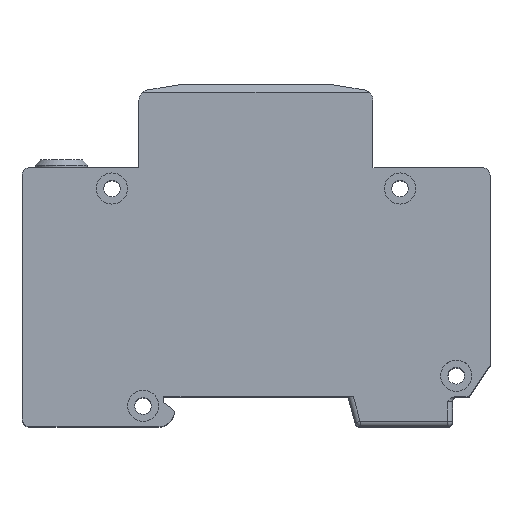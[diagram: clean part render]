
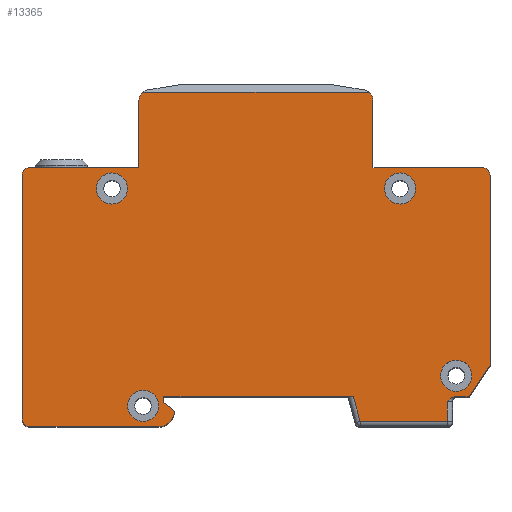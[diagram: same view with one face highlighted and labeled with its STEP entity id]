
A CAD part, top view. The second image highlights one B-rep face of the part: STEP entity #13365.
In plain terms, the highlighted planar face has unit normal (0, 0, 1).
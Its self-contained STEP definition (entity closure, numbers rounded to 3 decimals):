
#109=B_SPLINE_CURVE_WITH_KNOTS('',3,(#20997,#20998,#20999,#21000,#21001,
#21002),.UNSPECIFIED.,.F.,.F.,(4,2,4),(0.506,0.582,
0.7),.UNSPECIFIED.);
#166=FACE_BOUND('',#1830,.T.);
#167=FACE_BOUND('',#1831,.T.);
#168=FACE_BOUND('',#1832,.T.);
#169=FACE_BOUND('',#1833,.T.);
#487=CIRCLE('',#14256,1.5);
#489=CIRCLE('',#14287,1.5);
#491=CIRCLE('',#14293,3.);
#501=CIRCLE('',#14351,1.5);
#520=CIRCLE('',#14387,2.);
#521=CIRCLE('',#14388,2.);
#522=CIRCLE('',#14389,3.);
#523=CIRCLE('',#14390,3.);
#524=CIRCLE('',#14391,3.);
#525=CIRCLE('',#14392,3.);
#1085=FACE_OUTER_BOUND('',#1829,.T.);
#1829=EDGE_LOOP('',(#10721,#10722,#10723,#10724,#10725,#10726,#10727,#10728,
#10729,#10730,#10731,#10732,#10733,#10734,#10735,#10736,#10737,#10738,#10739,
#10740,#10741,#10742,#10743));
#1830=EDGE_LOOP('',(#10744));
#1831=EDGE_LOOP('',(#10745));
#1832=EDGE_LOOP('',(#10746));
#1833=EDGE_LOOP('',(#10747));
#2724=LINE('',#19986,#4295);
#3040=LINE('',#20675,#4611);
#3058=LINE('',#20712,#4629);
#3064=LINE('',#20728,#4635);
#3068=LINE('',#20736,#4639);
#3072=LINE('',#20748,#4643);
#3094=LINE('',#20807,#4665);
#3098=LINE('',#20816,#4669);
#3150=LINE('',#20916,#4721);
#3156=LINE('',#20934,#4727);
#3161=LINE('',#20983,#4732);
#3162=LINE('',#20987,#4733);
#3163=LINE('',#20990,#4734);
#3164=LINE('',#20992,#4735);
#3165=LINE('',#20994,#4736);
#3166=LINE('',#20996,#4737);
#4295=VECTOR('',#16147,10.);
#4611=VECTOR('',#16699,10.);
#4629=VECTOR('',#16739,10.);
#4635=VECTOR('',#16757,10.);
#4639=VECTOR('',#16765,10.);
#4643=VECTOR('',#16777,10.);
#4665=VECTOR('',#16841,10.);
#4669=VECTOR('',#16851,10.);
#4721=VECTOR('',#16947,10.);
#4727=VECTOR('',#16969,10.);
#4732=VECTOR('',#17036,10.);
#4733=VECTOR('',#17039,10.);
#4734=VECTOR('',#17042,10.);
#4735=VECTOR('',#17043,10.);
#4736=VECTOR('',#17044,10.);
#4737=VECTOR('',#17045,10.);
#5748=VERTEX_POINT('',#19983);
#5749=VERTEX_POINT('',#19985);
#5974=VERTEX_POINT('',#20565);
#6004=VERTEX_POINT('',#20673);
#6010=VERTEX_POINT('',#20702);
#6012=VERTEX_POINT('',#20710);
#6014=VERTEX_POINT('',#20718);
#6016=VERTEX_POINT('',#20726);
#6018=VERTEX_POINT('',#20734);
#6022=VERTEX_POINT('',#20746);
#6037=VERTEX_POINT('',#20804);
#6038=VERTEX_POINT('',#20806);
#6040=VERTEX_POINT('',#20814);
#6066=VERTEX_POINT('',#20914);
#6068=VERTEX_POINT('',#20922);
#6070=VERTEX_POINT('',#20932);
#6083=VERTEX_POINT('',#20982);
#6084=VERTEX_POINT('',#20984);
#6085=VERTEX_POINT('',#20986);
#6086=VERTEX_POINT('',#20988);
#6087=VERTEX_POINT('',#20991);
#6088=VERTEX_POINT('',#20993);
#6089=VERTEX_POINT('',#20995);
#6090=VERTEX_POINT('',#21003);
#6091=VERTEX_POINT('',#21005);
#6092=VERTEX_POINT('',#21007);
#6093=VERTEX_POINT('',#21009);
#7238=EDGE_CURVE('',#5749,#5748,#2724,.T.);
#7528=EDGE_CURVE('',#5974,#5748,#487,.T.);
#7584=EDGE_CURVE('',#5974,#6004,#3040,.T.);
#7600=EDGE_CURVE('',#6010,#6004,#489,.T.);
#7604=EDGE_CURVE('',#6010,#6012,#3058,.T.);
#7608=EDGE_CURVE('',#6012,#6014,#491,.T.);
#7612=EDGE_CURVE('',#6014,#6016,#3064,.T.);
#7616=EDGE_CURVE('',#6016,#6018,#3068,.T.);
#7622=EDGE_CURVE('',#6018,#6022,#3072,.T.);
#7651=EDGE_CURVE('',#6037,#6038,#3094,.T.);
#7656=EDGE_CURVE('',#6037,#6040,#3098,.T.);
#7708=EDGE_CURVE('',#6040,#6066,#3150,.T.);
#7712=EDGE_CURVE('',#6068,#6066,#501,.T.);
#7718=EDGE_CURVE('',#6068,#6070,#3156,.T.);
#7739=EDGE_CURVE('',#6070,#6083,#3161,.T.);
#7740=EDGE_CURVE('',#6084,#6083,#520,.T.);
#7741=EDGE_CURVE('',#6085,#6084,#3162,.T.);
#7742=EDGE_CURVE('',#6086,#6085,#521,.T.);
#7743=EDGE_CURVE('',#6086,#5749,#3163,.T.);
#7744=EDGE_CURVE('',#6087,#6022,#3164,.T.);
#7745=EDGE_CURVE('',#6088,#6087,#3165,.T.);
#7746=EDGE_CURVE('',#6089,#6088,#3166,.T.);
#7747=EDGE_CURVE('',#6038,#6089,#109,.T.);
#7748=EDGE_CURVE('',#6090,#6090,#522,.T.);
#7749=EDGE_CURVE('',#6091,#6091,#523,.T.);
#7750=EDGE_CURVE('',#6092,#6092,#524,.T.);
#7751=EDGE_CURVE('',#6093,#6093,#525,.T.);
#10721=ORIENTED_EDGE('',*,*,#7712,.F.);
#10722=ORIENTED_EDGE('',*,*,#7718,.T.);
#10723=ORIENTED_EDGE('',*,*,#7739,.T.);
#10724=ORIENTED_EDGE('',*,*,#7740,.F.);
#10725=ORIENTED_EDGE('',*,*,#7741,.F.);
#10726=ORIENTED_EDGE('',*,*,#7742,.F.);
#10727=ORIENTED_EDGE('',*,*,#7743,.T.);
#10728=ORIENTED_EDGE('',*,*,#7238,.T.);
#10729=ORIENTED_EDGE('',*,*,#7528,.F.);
#10730=ORIENTED_EDGE('',*,*,#7584,.T.);
#10731=ORIENTED_EDGE('',*,*,#7600,.F.);
#10732=ORIENTED_EDGE('',*,*,#7604,.T.);
#10733=ORIENTED_EDGE('',*,*,#7608,.T.);
#10734=ORIENTED_EDGE('',*,*,#7612,.T.);
#10735=ORIENTED_EDGE('',*,*,#7616,.T.);
#10736=ORIENTED_EDGE('',*,*,#7622,.T.);
#10737=ORIENTED_EDGE('',*,*,#7744,.F.);
#10738=ORIENTED_EDGE('',*,*,#7745,.F.);
#10739=ORIENTED_EDGE('',*,*,#7746,.F.);
#10740=ORIENTED_EDGE('',*,*,#7747,.F.);
#10741=ORIENTED_EDGE('',*,*,#7651,.F.);
#10742=ORIENTED_EDGE('',*,*,#7656,.T.);
#10743=ORIENTED_EDGE('',*,*,#7708,.T.);
#10744=ORIENTED_EDGE('',*,*,#7748,.T.);
#10745=ORIENTED_EDGE('',*,*,#7749,.T.);
#10746=ORIENTED_EDGE('',*,*,#7750,.T.);
#10747=ORIENTED_EDGE('',*,*,#7751,.T.);
#12738=PLANE('',#14386);
#13365=ADVANCED_FACE('',(#1085,#166,#167,#168,#169),#12738,.T.);
#14256=AXIS2_PLACEMENT_3D('',#20567,#16598,#16599);
#14287=AXIS2_PLACEMENT_3D('',#20704,#16730,#16731);
#14293=AXIS2_PLACEMENT_3D('',#20720,#16748,#16749);
#14351=AXIS2_PLACEMENT_3D('',#20924,#16956,#16957);
#14386=AXIS2_PLACEMENT_3D('',#20981,#17034,#17035);
#14387=AXIS2_PLACEMENT_3D('',#20985,#17037,#17038);
#14388=AXIS2_PLACEMENT_3D('',#20989,#17040,#17041);
#14389=AXIS2_PLACEMENT_3D('',#21004,#17046,#17047);
#14390=AXIS2_PLACEMENT_3D('',#21006,#17048,#17049);
#14391=AXIS2_PLACEMENT_3D('',#21008,#17050,#17051);
#14392=AXIS2_PLACEMENT_3D('',#21010,#17052,#17053);
#16147=DIRECTION('',(-1.,0.,0.));
#16598=DIRECTION('center_axis',(0.,0.,-1.));
#16599=DIRECTION('ref_axis',(-0.707,0.707,0.));
#16699=DIRECTION('',(0.,-1.,0.));
#16730=DIRECTION('center_axis',(0.,0.,-1.));
#16731=DIRECTION('ref_axis',(-0.707,-0.707,0.));
#16739=DIRECTION('',(1.,0.,0.));
#16748=DIRECTION('center_axis',(0.,0.,1.));
#16749=DIRECTION('ref_axis',(0.,-1.,0.));
#16757=DIRECTION('',(-0.781,0.625,0.));
#16765=DIRECTION('',(0.,1.,0.));
#16777=DIRECTION('',(1.,0.,0.));
#16841=DIRECTION('',(-1.,0.,0.));
#16851=DIRECTION('',(0.555,0.832,0.));
#16947=DIRECTION('',(0.,1.,0.));
#16956=DIRECTION('center_axis',(0.,0.,-1.));
#16957=DIRECTION('ref_axis',(0.707,0.707,0.));
#16969=DIRECTION('',(-1.,0.,0.));
#17034=DIRECTION('center_axis',(0.,0.,1.));
#17035=DIRECTION('ref_axis',(1.,0.,0.));
#17036=DIRECTION('',(0.,1.,0.));
#17037=DIRECTION('center_axis',(0.,0.,-1.));
#17038=DIRECTION('ref_axis',(0.762,0.648,0.));
#17039=DIRECTION('',(1.,0.,0.));
#17040=DIRECTION('center_axis',(0.,0.,-1.));
#17041=DIRECTION('ref_axis',(-0.762,0.648,0.));
#17042=DIRECTION('',(0.,-1.,0.));
#17043=DIRECTION('',(-0.259,0.966,0.));
#17044=DIRECTION('',(-1.,0.,0.));
#17045=DIRECTION('',(0.,-1.,0.));
#17046=DIRECTION('center_axis',(0.,0.,-1.));
#17047=DIRECTION('ref_axis',(1.,0.,0.));
#17048=DIRECTION('center_axis',(0.,0.,-1.));
#17049=DIRECTION('ref_axis',(1.,0.,0.));
#17050=DIRECTION('center_axis',(0.,0.,-1.));
#17051=DIRECTION('ref_axis',(1.,0.,0.));
#17052=DIRECTION('center_axis',(0.,0.,-1.));
#17053=DIRECTION('ref_axis',(1.,0.,0.));
#19983=CARTESIAN_POINT('',(-43.5,14.,17.5));
#19985=CARTESIAN_POINT('',(-22.5,14.,17.5));
#19986=CARTESIAN_POINT('',(-22.5,14.,17.5));
#20565=CARTESIAN_POINT('',(-45.,12.5,17.5));
#20567=CARTESIAN_POINT('Origin',(-43.5,12.5,17.5));
#20673=CARTESIAN_POINT('',(-45.,-34.3,17.5));
#20675=CARTESIAN_POINT('',(-45.,14.,17.5));
#20702=CARTESIAN_POINT('',(-43.5,-35.8,17.5));
#20704=CARTESIAN_POINT('Origin',(-43.5,-34.3,17.5));
#20710=CARTESIAN_POINT('',(-18.7,-35.8,17.5));
#20712=CARTESIAN_POINT('',(-45.,-35.8,17.5));
#20718=CARTESIAN_POINT('',(-15.7,-32.8,17.5));
#20720=CARTESIAN_POINT('Origin',(-18.7,-32.8,17.5));
#20726=CARTESIAN_POINT('',(-17.7,-31.2,17.5));
#20728=CARTESIAN_POINT('',(-15.7,-32.8,17.5));
#20734=CARTESIAN_POINT('',(-17.7,-30.,17.5));
#20736=CARTESIAN_POINT('',(-17.7,-31.2,17.5));
#20746=CARTESIAN_POINT('',(18.735,-30.,17.5));
#20748=CARTESIAN_POINT('',(-17.7,-30.,17.5));
#20804=CARTESIAN_POINT('',(41.,-30.,17.5));
#20806=CARTESIAN_POINT('',(38.532,-30.,17.5));
#20807=CARTESIAN_POINT('',(18.592,-30.,17.5));
#20814=CARTESIAN_POINT('',(45.,-24.,17.5));
#20816=CARTESIAN_POINT('',(41.,-30.,17.5));
#20914=CARTESIAN_POINT('',(45.,12.5,17.5));
#20916=CARTESIAN_POINT('',(45.,-24.,17.5));
#20922=CARTESIAN_POINT('',(43.5,14.,17.5));
#20924=CARTESIAN_POINT('Origin',(43.5,12.5,17.5));
#20932=CARTESIAN_POINT('',(22.5,14.,17.5));
#20934=CARTESIAN_POINT('',(45.,14.,17.5));
#20981=CARTESIAN_POINT('Origin',(-0.615,-5.122,17.5));
#20982=CARTESIAN_POINT('',(22.5,26.999,17.5));
#20983=CARTESIAN_POINT('',(22.5,14.,17.5));
#20984=CARTESIAN_POINT('',(21.821,28.5,17.5));
#20985=CARTESIAN_POINT('Origin',(20.5,26.999,17.5));
#20986=CARTESIAN_POINT('',(-21.821,28.5,17.5));
#20987=CARTESIAN_POINT('',(10.942,28.5,17.5));
#20988=CARTESIAN_POINT('',(-22.5,26.999,17.5));
#20989=CARTESIAN_POINT('Origin',(-20.5,26.999,17.5));
#20990=CARTESIAN_POINT('',(-22.5,30.,17.5));
#20991=CARTESIAN_POINT('',(20.021,-34.8,17.5));
#20992=CARTESIAN_POINT('',(14.943,-15.846,17.5));
#20993=CARTESIAN_POINT('',(36.8,-34.8,17.5));
#20994=CARTESIAN_POINT('',(9.319,-34.8,17.5));
#20995=CARTESIAN_POINT('',(36.8,-31.,17.5));
#20996=CARTESIAN_POINT('',(36.8,-20.461,17.5));
#20997=CARTESIAN_POINT('Ctrl Pts',(38.532,-30.,17.5));
#20998=CARTESIAN_POINT('Ctrl Pts',(38.277,-30.,17.5));
#20999=CARTESIAN_POINT('Ctrl Pts',(37.985,-30.09,17.5));
#21000=CARTESIAN_POINT('Ctrl Pts',(37.415,-30.396,17.5));
#21001=CARTESIAN_POINT('Ctrl Pts',(37.077,-30.723,17.5));
#21002=CARTESIAN_POINT('Ctrl Pts',(36.8,-31.,17.5));
#21003=CARTESIAN_POINT('',(35.5,-26.,17.5));
#21004=CARTESIAN_POINT('Origin',(38.5,-26.,17.5));
#21005=CARTESIAN_POINT('',(24.7,10.,17.5));
#21006=CARTESIAN_POINT('Origin',(27.7,10.,17.5));
#21007=CARTESIAN_POINT('',(-30.7,10.,17.5));
#21008=CARTESIAN_POINT('Origin',(-27.7,10.,17.5));
#21009=CARTESIAN_POINT('',(-24.7,-31.8,17.5));
#21010=CARTESIAN_POINT('Origin',(-21.7,-31.8,17.5));
